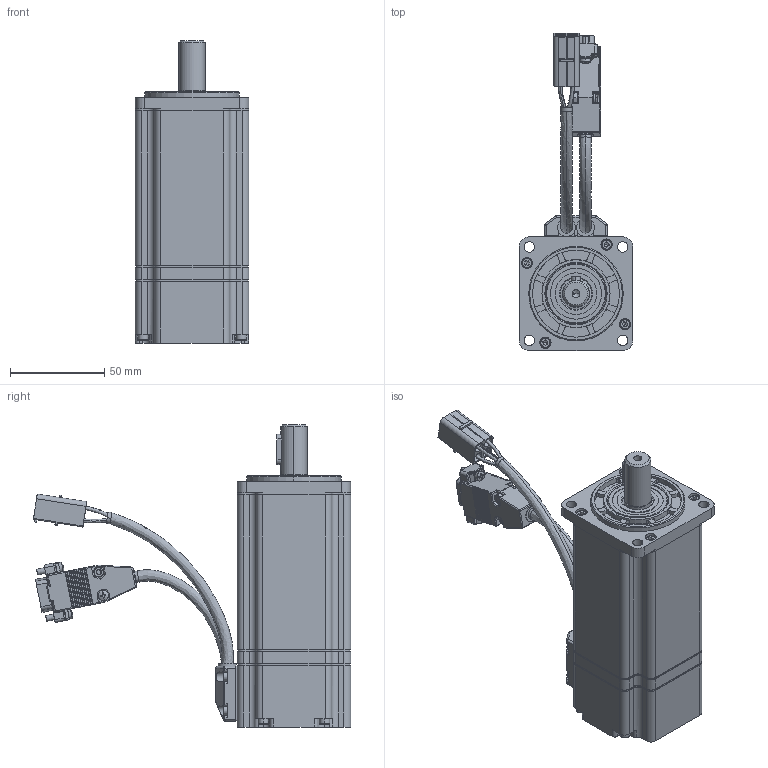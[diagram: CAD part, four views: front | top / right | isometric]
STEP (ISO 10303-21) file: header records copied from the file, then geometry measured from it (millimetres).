
FILE_DESCRIPTION (( 'STEP AP203' ), '1' );
FILE_NAME ('淕儂蚾饜.STEP', '2019-11-01T09:30:01', ( 'admin' ), ( '' ), 'SwSTEP 2.0', 'SolidWorks 2016', '' );
FILE_SCHEMA (( 'CONFIG_CONTROL_DESIGN' ));
Length unit declared in the file: millimetre
Products named in the file (1): 淕儂蚾饜
Bounding box: 60 x 167.86 x 160 mm (x, y, z)
Volume: 176862.2 mm3; surface area: 119476.2 mm2
Topology: 38 solids, 38 shells, 2137 faces, 5436 edges, 3309 vertices
Faces by surface type: cylinder 1002, plane 783, cone 140, sphere 94, bspline 68, torus 50
Entity records: 65888 total; most frequent: CARTESIAN_POINT 14620, DIRECTION 11252, ORIENTED_EDGE 10436, EDGE_CURVE 5218, AXIS2_PLACEMENT_3D 4295, VERTEX_POINT 3271, VECTOR 2662, LINE 2662
